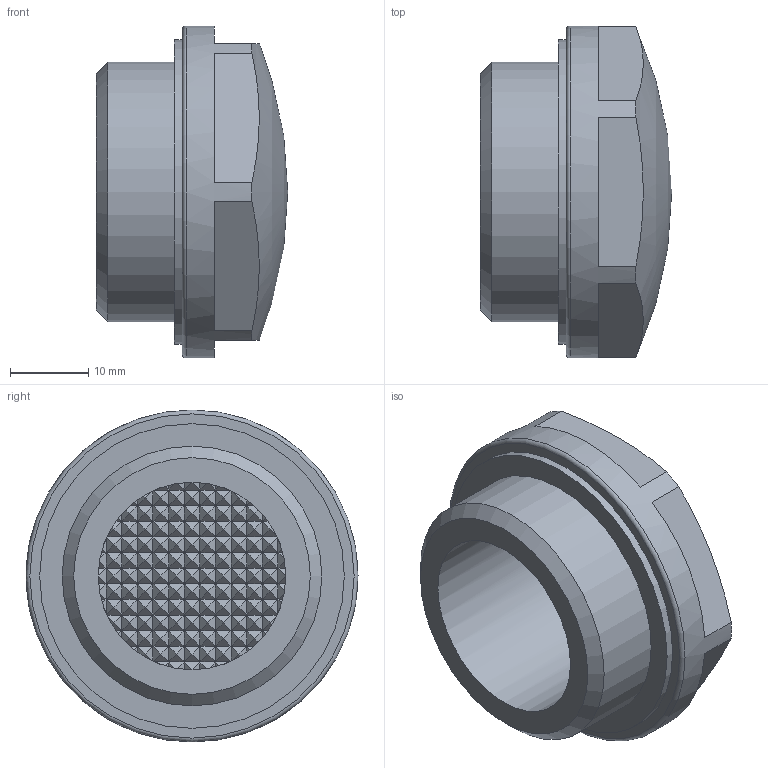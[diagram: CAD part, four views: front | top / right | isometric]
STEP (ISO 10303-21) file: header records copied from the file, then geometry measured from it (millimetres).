
FILE_DESCRIPTION( ( 'STEP AP203' ), '1' );
FILE_NAME( 'C:/Temp/Ganter_Step_05_03_2020/data/3_5/gn541_3/Prismatic-Oil level sight glass GN 541.3-24-G1.stp', '2020-03-12T13:43:46', ( 'License CC BY-ND 4.0' ), ( 'CADENAS' ), ' ', 'PARTsolutions', ' ' );
FILE_SCHEMA( ( 'CONFIG_CONTROL_DESIGN' ) );
Length unit declared in the file: millimetre
Products named in the file (1): _Prismatic-Oil level sight glass GN 541.3-24-G1
Bounding box: 24.5 x 42.5 x 42.5 mm (x, y, z)
Volume: 16471.4 mm3; surface area: 6749.8 mm2
Topology: 1 solids, 1 shells, 526 faces, 890 edges, 368 vertices
Faces by surface type: plane 519, cylinder 4, torus 1, cone 1, sphere 1
Full cylindrical faces by diameter (mm): 24 x1, 33.249 x1, 39 x1, 42.5 x1
Entity records: 11310 total; most frequent: DIRECTION 2072, CARTESIAN_POINT 1773, ORIENTED_EDGE 1760, EDGE_CURVE 880, LINE 742, VECTOR 742, AXIS2_PLACEMENT_3D 665, EDGE_LOOP 535
